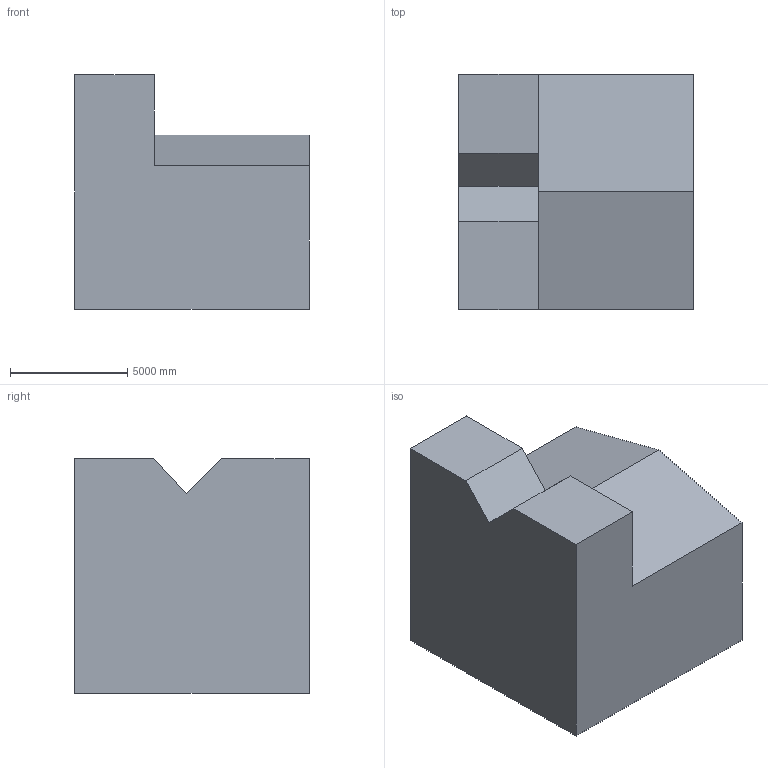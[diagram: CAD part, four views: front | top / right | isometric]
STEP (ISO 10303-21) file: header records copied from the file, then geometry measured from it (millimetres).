
FILE_DESCRIPTION (( 'STEP AP203' ), '1' );
FILE_NAME ('30.STEP', '2022-08-31T11:13:08', ( 'user' ), ( '' ), 'SwSTEP 2.0', 'SolidWorks 2021', '' );
FILE_SCHEMA (( 'CONFIG_CONTROL_DESIGN' ));
Length unit declared in the file: centimetre
Products named in the file (1): 30
Bounding box: 10000 x 10000 x 10000 mm (x, y, z)
Volume: 779610237259.7 mm3; surface area: 551019021.4 mm2
Topology: 1 solids, 1 shells, 12 faces, 30 edges, 20 vertices
Faces by surface type: plane 12
Entity records: 431 total; most frequent: CARTESIAN_POINT 63, ORIENTED_EDGE 60, DIRECTION 56, LINE 30, VECTOR 30, EDGE_CURVE 30, VERTEX_POINT 20, AXIS2_PLACEMENT_3D 13
